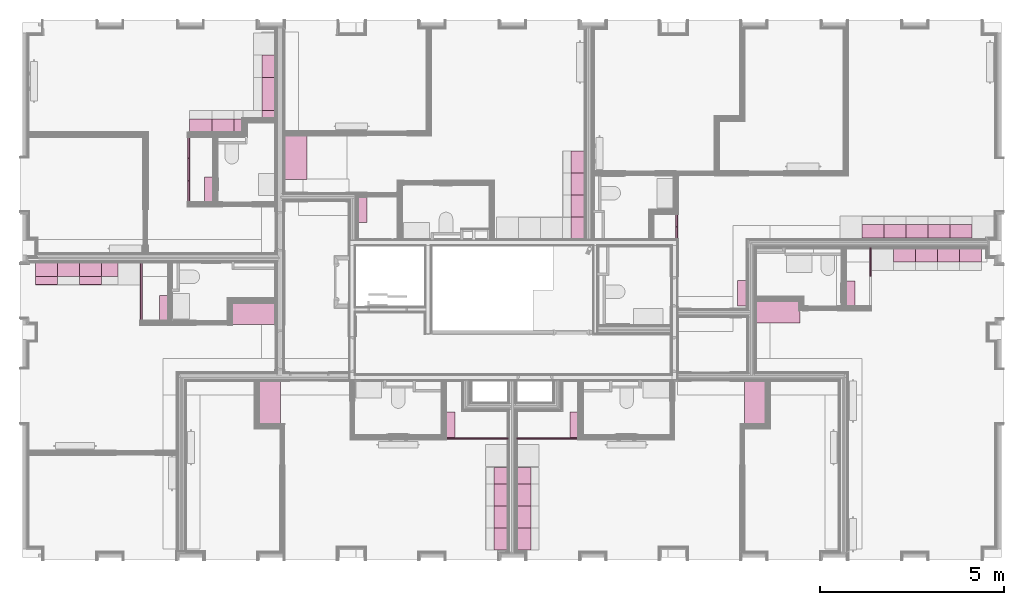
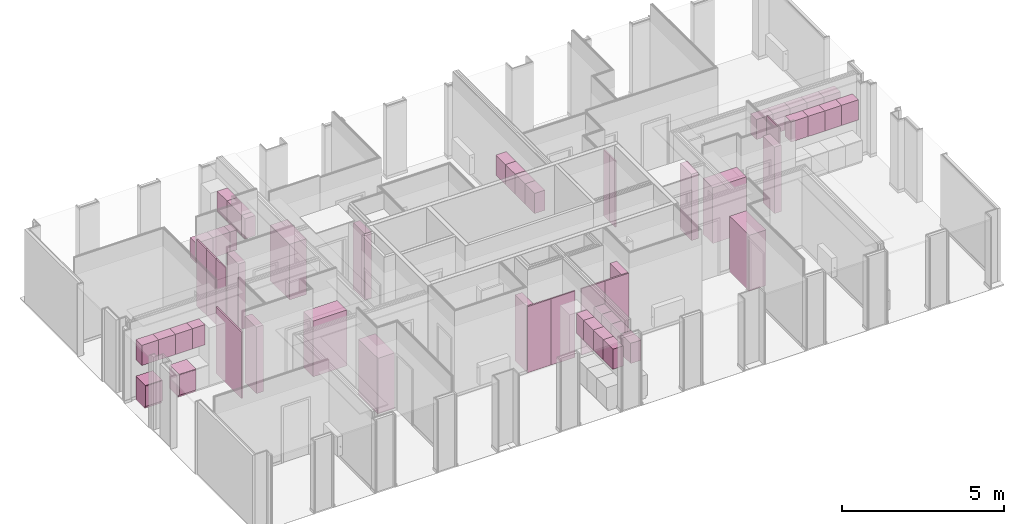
# One storey, part 62 of 64: 56 furnishings.
"""IFC2X3 building model written with IfcOpenShell, lengths in metres."""

import ifcopenshell
import ifcopenshell.guid

model = None  # the IFC model being written
_history = None  # IfcOwnerHistory: only IFC2X3 demands one
_inside = {}  # id of a spatial element -> (the spatial element, [elements in it])
_under = {}  # id of a project, library or spatial element -> (it, [spatial elements below it])
_declared = {}  # id of a project -> (the project, [libraries it declares])
_typed = {}  # id of a type object -> (the type object, [elements of that type])
_made_of = {}  # id of a material, layer set ... -> (it, [elements and type objects made of it])


def new_model(schema):
    """Start an empty IFC model of exactly this schema.

    Asked for "IFC4X3", IfcOpenShell would pick the latest addendum, in which some entities
    have other attributes; the version numbers below select the first issue.
    IFC2X3 requires an IfcOwnerHistory on every rooted entity: one is made here for all.
    """
    global model, _history
    if schema == "IFC4X3":
        model = ifcopenshell.file(schema_version=(4, 3, 0, 0))
    else:
        model = ifcopenshell.file(schema=schema)
    _inside.clear()
    _under.clear()
    _declared.clear()
    _typed.clear()
    _made_of.clear()
    _history = None
    if model.schema == "IFC2X3":
        org = make("IfcOrganization", Name="unknown")
        user = make(
            "IfcPersonAndOrganization",
            ThePerson=make("IfcPerson", FamilyName="unknown"),
            TheOrganization=org,
        )
        app = make(
            "IfcApplication",
            ApplicationDeveloper=org,
            Version="unknown",
            ApplicationFullName="unknown",
            ApplicationIdentifier="unknown",
        )
        _history = make(
            "IfcOwnerHistory",
            OwningUser=user,
            OwningApplication=app,
            ChangeAction="ADDED",
            CreationDate=0,
        )
    return model


def make(cls, **values):
    """One entity of the class cls with the attributes given. An attribute that is None is left unset."""
    return model.create_entity(
        cls, **{name: value for name, value in values.items() if value is not None}
    )


def entity(cls, *values):
    """Any entity or typed value of the class cls, its attributes in the order of the schema. None: left unset."""
    e = model.create_entity(cls)
    for i, value in enumerate(values):
        if value is not None:
            e[i] = value
    return e


def rooted(cls, **values):
    """An entity with a GlobalId (a new one), such as an element, a storey or a relation."""
    return make(cls, GlobalId=ifcopenshell.guid.new(), OwnerHistory=_history, **values)


def si_unit(unit_type, name, prefix=None):
    """IfcSIUnit, for example si_unit("LENGTHUNIT", "METRE", prefix="MILLI")."""
    return make("IfcSIUnit", UnitType=unit_type, Prefix=prefix, Name=name)


def converted_unit(unit_type, name, factor, base, dimensions=None, offset=None):
    """IfcConversionBasedUnit, such as the inch: factor (a typed value) times the base unit."""
    return make(
        "IfcConversionBasedUnit"
        if offset is None
        else "IfcConversionBasedUnitWithOffset",
        ConversionOffset=offset,
        Dimensions=None
        if dimensions is None
        else entity("IfcDimensionalExponents", *dimensions),
        UnitType=unit_type,
        Name=name,
        ConversionFactor=make(
            "IfcMeasureWithUnit", ValueComponent=factor, UnitComponent=base
        ),
    )


def derived_unit(unit_type, elements):
    """IfcDerivedUnit: a product of units, each with its exponent."""
    return make(
        "IfcDerivedUnit",
        Elements=[
            make("IfcDerivedUnitElement", Unit=unit, Exponent=power)
            for unit, power in elements
        ],
        UnitType=unit_type,
    )


def money_unit(currency):
    """IfcMonetaryUnit."""
    return make("IfcMonetaryUnit", Currency=currency)


def assignment(units):
    """IfcUnitAssignment: the units of a project."""
    return None if units is None else make("IfcUnitAssignment", Units=units)


def point(xyz):
    """IfcCartesianPoint."""
    return None if xyz is None else make("IfcCartesianPoint", Coordinates=xyz)


def direction(xyz):
    """IfcDirection."""
    return None if xyz is None else make("IfcDirection", DirectionRatios=xyz)


def frame(location, z_axis=None, x_axis=None):
    """IfcAxis2Placement3D, a coordinate frame: its origin and axes. An axis left out is left unset."""
    return make(
        "IfcAxis2Placement3D",
        Location=point(location),
        Axis=direction(z_axis),
        RefDirection=direction(x_axis),
    )


def frame_2d(location, x_axis=None):
    """IfcAxis2Placement2D, a coordinate frame in the plane: its origin and x axis."""
    return make(
        "IfcAxis2Placement2D", Location=point(location), RefDirection=direction(x_axis)
    )


def origin_with_axes():
    """The frame at (0, 0, 0) with the z axis (0, 0, 1) and the x axis (1, 0, 0) written out."""
    return frame((0.0, 0.0, 0.0), z_axis=(0.0, 0.0, 1.0), x_axis=(1.0, 0.0, 0.0))


def place(relative_to, where):
    """IfcLocalPlacement: puts the frame where relative to a parent placement (None: the world)."""
    return make(
        "IfcLocalPlacement", PlacementRelTo=relative_to, RelativePlacement=where
    )


def context(
    kind, dimensions, precision=None, world=None, true_north=None, identifier=None
):
    """IfcGeometricRepresentationContext, for example the 3D "Model" context."""
    return make(
        "IfcGeometricRepresentationContext",
        ContextIdentifier=identifier,
        ContextType=kind,
        CoordinateSpaceDimension=dimensions,
        Precision=precision,
        WorldCoordinateSystem=world,
        TrueNorth=true_north,
    )


def subcontext(parent, identifier, kind, view, scale=None):
    """IfcGeometricRepresentationSubContext, for example "Body" below "Model"."""
    return make(
        "IfcGeometricRepresentationSubContext",
        ContextIdentifier=identifier,
        ContextType=kind,
        ParentContext=parent,
        TargetScale=scale,
        TargetView=view,
    )


def project(units=None, contexts=None):
    """IfcProject with its units and contexts."""
    return rooted(
        "IfcProject",
        Name="project",
        RepresentationContexts=contexts,
        UnitsInContext=assignment(units),
    )


def spatial(cls, under=None, at=None, **own):
    """A site, building, storey or space (cls), placed at a placement, below another one or the project."""
    s = rooted(cls, ObjectPlacement=at, **own)
    if under is not None:
        _under.setdefault(under.id(), (under, []))[1].append(s)
    return s


def profile(cls, at=None, kind="AREA", **sizes):
    """A parametric profile (cls). Its sizes go by their IFC names, for example OverallWidth=200.0."""
    return make(cls, ProfileType=kind, Position=at, **sizes)


def rectangle(**sizes):
    """IfcRectangleProfileDef."""
    return profile("IfcRectangleProfileDef", **sizes)


def extrude(swept, where, along, depth):
    """IfcExtrudedAreaSolid: the profile swept, set in the frame where, extruded along a direction by depth."""
    return make(
        "IfcExtrudedAreaSolid",
        SweptArea=swept,
        Position=where,
        ExtrudedDirection=direction(along),
        Depth=depth,
    )


def faces_of(points, faces, orient=None, outer=None):
    """IfcFace entities. A face is a list of loops; a loop is a list of indices into points, from 0.

    orient and outer hold one flag for each loop. By default every Orientation is true, the
    first loop of a face is its IfcFaceOuterBound and the others are IfcFaceBound.
    """
    made = []
    for i, loops in enumerate(faces):
        bounds = []
        for j, loop in enumerate(loops):
            is_outer = j == 0 if outer is None else outer[i][j]
            bounds.append(
                make(
                    "IfcFaceOuterBound" if is_outer else "IfcFaceBound",
                    Bound=make("IfcPolyLoop", Polygon=[points[k] for k in loop]),
                    Orientation=True if orient is None else orient[i][j],
                )
            )
        made.append(make("IfcFace", Bounds=bounds))
    return made


def faceted_brep(points, faces, orient=None, outer=None, voids=None):
    """IfcFacetedBrep: a solid bounded by flat faces; with voids (closed shells), ...WithVoids."""
    shared = [point(p) for p in points]
    hull = make("IfcClosedShell", CfsFaces=faces_of(shared, faces, orient, outer))
    if voids is None:
        return make("IfcFacetedBrep", Outer=hull)
    return make(
        "IfcFacetedBrepWithVoids",
        Outer=hull,
        Voids=[
            make(cls, CfsFaces=faces_of(shared, fs, o, b)) for cls, fs, o, b in voids
        ],
    )


def shape(context_of_items, identifier, shape_type, items):
    """IfcShapeRepresentation: the items that make up one representation, for example the "Body"."""
    return make(
        "IfcShapeRepresentation",
        ContextOfItems=context_of_items,
        RepresentationIdentifier=identifier,
        RepresentationType=shape_type,
        Items=items,
    )


def material(Name=None, Category=None):
    """IfcMaterial."""
    return make("IfcMaterial", Name=Name, Category=Category)


def made_of(thing, what):
    """Note that an element or type object is made of a material, layer set ...; save() writes the relation."""
    if what is not None:
        _made_of.setdefault(what.id(), (what, []))[1].append(thing)
    return thing


def type_object(cls, material=None, **own):
    """A type object (cls), such as IfcWallType, which elements share."""
    return made_of(rooted(cls, **own), material)


def element(
    cls,
    number,
    at=None,
    inside=None,
    cuts=None,
    type_object=None,
    material=None,
    context=None,
    identifier="Body",
    shape_type=None,
    held_by="IfcProductDefinitionShape",
    body=None,
    shapes=None,
    **own,
):
    """One element of the class cls, such as IfcWall. Its Tag is "e" and its number.

    at: its placement. inside: the storey or other place that contains it. cuts: it is an
    opening in that element (IfcRelVoidsElement). A single representation is given by context,
    identifier, shape_type and body (its items); several are given by shapes. held_by: the class
    of the entity that holds the representations. save() writes the other relations.
    """
    e = rooted(cls, Tag="e%d" % number, ObjectPlacement=at, **own)
    if body is not None:
        shapes = [shape(context, identifier, shape_type, body)]
    if shapes is not None:
        e.Representation = make(held_by, Representations=shapes)
    if inside is not None:
        _inside.setdefault(inside.id(), (inside, []))[1].append(e)
    if cuts is not None:
        rooted(
            "IfcRelVoidsElement", RelatingBuildingElement=cuts, RelatedOpeningElement=e
        )
    if type_object is not None:
        _typed.setdefault(type_object.id(), (type_object, []))[1].append(e)
    return made_of(e, material)


def aggregate(whole, parts):
    """IfcRelAggregates: a whole, such as a stair, and the parts it consists of."""
    return rooted("IfcRelAggregates", RelatingObject=whole, RelatedObjects=parts)


def save(model, path):
    """Write the relations noted so far, then the file.

    IfcRelAggregates (storeys below a building ...), IfcRelContainedInSpatialStructure (elements
    in a storey), IfcRelDefinesByType, IfcRelAssociatesMaterial and IfcRelDeclares: one each for
    every whole, place, type object, material and project.
    """
    for whole, parts in _under.values():
        aggregate(whole, parts)
    for where, things in _inside.values():
        rooted(
            "IfcRelContainedInSpatialStructure",
            RelatedElements=things,
            RelatingStructure=where,
        )
    for kind, things in _typed.values():
        rooted("IfcRelDefinesByType", RelatedObjects=things, RelatingType=kind)
    for what, things in _made_of.values():
        rooted("IfcRelAssociatesMaterial", RelatedObjects=things, RelatingMaterial=what)
    for by, libraries in _declared.values():
        rooted("IfcRelDeclares", RelatingContext=by, RelatedDefinitions=libraries)
    model.write(path)


model = new_model("IFC2X3")

# Units and contexts
model_context = context("Model", 3, precision=1e-05, world=origin_with_axes(), true_north=direction((0.0, 1.0)))
body_context = subcontext(model_context, "Body", "Model", "MODEL_VIEW", scale=1.0)
ifc_project = project(units=[si_unit("LENGTHUNIT", "METRE"), si_unit("AREAUNIT", "SQUARE_METRE"), si_unit("VOLUMEUNIT", "CUBIC_METRE"), si_unit("ABSORBEDDOSEUNIT", "GRAY"), si_unit("AMOUNTOFSUBSTANCEUNIT", "MOLE"), si_unit("DOSEEQUIVALENTUNIT", "SIEVERT"), si_unit("ELECTRICCAPACITANCEUNIT", "FARAD"), si_unit("ELECTRICCHARGEUNIT", "COULOMB"), si_unit("ELECTRICCONDUCTANCEUNIT", "SIEMENS"), si_unit("ELECTRICCURRENTUNIT", "AMPERE"), si_unit("ELECTRICRESISTANCEUNIT", "OHM"), si_unit("ELECTRICVOLTAGEUNIT", "VOLT"), si_unit("ENERGYUNIT", "JOULE"), si_unit("FORCEUNIT", "NEWTON"), si_unit("FREQUENCYUNIT", "HERTZ"), si_unit("ILLUMINANCEUNIT", "LUX"), si_unit("INDUCTANCEUNIT", "HENRY"), si_unit("LUMINOUSFLUXUNIT", "LUMEN"), si_unit("LUMINOUSINTENSITYUNIT", "CANDELA"), si_unit("MAGNETICFLUXDENSITYUNIT", "TESLA"), si_unit("MAGNETICFLUXUNIT", "WEBER"), si_unit("MASSUNIT", "GRAM"), converted_unit("PLANEANGLEUNIT", "degree", entity("IfcReal", 0.0174532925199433), si_unit("PLANEANGLEUNIT", "RADIAN"), dimensions=[0, 0, 0, 0, 0, 0, 0]), si_unit("POWERUNIT", "WATT"), si_unit("PRESSUREUNIT", "PASCAL"), si_unit("RADIOACTIVITYUNIT", "BECQUEREL"), si_unit("SOLIDANGLEUNIT", "STERADIAN"), si_unit("THERMODYNAMICTEMPERATUREUNIT", "KELVIN"), si_unit("TIMEUNIT", "SECOND"), derived_unit("ACCELERATIONUNIT", [(si_unit("LENGTHUNIT", "METRE"), 1), (si_unit("TIMEUNIT", "SECOND"), -2)]), derived_unit("ANGULARVELOCITYUNIT", [(converted_unit("PLANEANGLEUNIT", "degree", entity("IfcReal", 0.0174532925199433), si_unit("PLANEANGLEUNIT", "RADIAN"), dimensions=[0, 0, 0, 0, 0, 0, 0]), 1), (si_unit("TIMEUNIT", "SECOND"), -1)]), derived_unit("CURVATUREUNIT", [(converted_unit("PLANEANGLEUNIT", "degree", entity("IfcReal", 0.0174532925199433), si_unit("PLANEANGLEUNIT", "RADIAN"), dimensions=[0, 0, 0, 0, 0, 0, 0]), 1), (si_unit("LENGTHUNIT", "METRE"), -1)]), derived_unit("DYNAMICVISCOSITYUNIT", [(si_unit("PRESSUREUNIT", "PASCAL"), 1), (si_unit("TIMEUNIT", "SECOND"), 1)]), derived_unit("HEATFLUXDENSITYUNIT", [(si_unit("POWERUNIT", "WATT"), 1), (si_unit("LENGTHUNIT", "METRE"), -2)]), derived_unit("HEATINGVALUEUNIT", [(si_unit("ENERGYUNIT", "JOULE"), 1), (si_unit("MASSUNIT", "GRAM"), -1)]), derived_unit("INTEGERCOUNTRATEUNIT", [(si_unit("TIMEUNIT", "SECOND"), -1)]), derived_unit("IONCONCENTRATIONUNIT", [(si_unit("MASSUNIT", "GRAM"), 1), (si_unit("VOLUMEUNIT", "CUBIC_METRE"), -1)]), derived_unit("ISOTHERMALMOISTURECAPACITYUNIT", [(si_unit("VOLUMEUNIT", "CUBIC_METRE"), 1), (si_unit("MASSUNIT", "GRAM"), -1)]), derived_unit("KINEMATICVISCOSITYUNIT", [(si_unit("AREAUNIT", "SQUARE_METRE"), 1), (si_unit("TIMEUNIT", "SECOND"), -1)]), derived_unit("LINEARFORCEUNIT", [(si_unit("FORCEUNIT", "NEWTON"), 1), (si_unit("LENGTHUNIT", "METRE"), -1)]), derived_unit("LINEARMOMENTUNIT", [(si_unit("FORCEUNIT", "NEWTON"), 1), (si_unit("LENGTHUNIT", "METRE"), -1)]), derived_unit("LINEARSTIFFNESSUNIT", [(si_unit("FORCEUNIT", "NEWTON"), 1), (si_unit("LENGTHUNIT", "METRE"), -1)]), derived_unit("LINEARVELOCITYUNIT", [(si_unit("LENGTHUNIT", "METRE"), 1), (si_unit("TIMEUNIT", "SECOND"), -1)]), derived_unit("LUMINOUSINTENSITYDISTRIBUTIONUNIT", [(si_unit("LUMINOUSINTENSITYUNIT", "CANDELA"), 1), (si_unit("LUMINOUSFLUXUNIT", "LUMEN"), -1)]), derived_unit("MASSDENSITYUNIT", [(si_unit("MASSUNIT", "GRAM"), 1), (si_unit("VOLUMEUNIT", "CUBIC_METRE"), -1)]), derived_unit("MASSFLOWRATEUNIT", [(si_unit("MASSUNIT", "GRAM"), 1), (si_unit("TIMEUNIT", "SECOND"), -1)]), derived_unit("MASSPERLENGTHUNIT", [(si_unit("MASSUNIT", "GRAM"), 1), (si_unit("LENGTHUNIT", "METRE"), -1)]), derived_unit("MODULUSOFELASTICITYUNIT", [(si_unit("FORCEUNIT", "NEWTON"), 1), (si_unit("AREAUNIT", "SQUARE_METRE"), -1)]), derived_unit("MODULUSOFLINEARSUBGRADEREACTIONUNIT", [(si_unit("FORCEUNIT", "NEWTON"), 1), (si_unit("LENGTHUNIT", "METRE"), -2)]), derived_unit("MODULUSOFROTATIONALSUBGRADEREACTIONUNIT", [(si_unit("FORCEUNIT", "NEWTON"), 1), (si_unit("LENGTHUNIT", "METRE"), 1)]), derived_unit("MODULUSOFSUBGRADEREACTIONUNIT", [(si_unit("FORCEUNIT", "NEWTON"), 1), (si_unit("VOLUMEUNIT", "CUBIC_METRE"), -1)]), derived_unit("MOISTUREDIFFUSIVITYUNIT", [(si_unit("VOLUMEUNIT", "CUBIC_METRE"), 1), (si_unit("TIMEUNIT", "SECOND"), -1)]), derived_unit("MOLECULARWEIGHTUNIT", [(si_unit("MASSUNIT", "GRAM"), 1), (si_unit("AMOUNTOFSUBSTANCEUNIT", "MOLE"), -1)]), derived_unit("PLANARFORCEUNIT", [(si_unit("FORCEUNIT", "NEWTON"), 1), (si_unit("LENGTHUNIT", "METRE"), -2)]), derived_unit("ROTATIONALFREQUENCYUNIT", [(si_unit("TIMEUNIT", "SECOND"), -1)]), derived_unit("ROTATIONALMASSUNIT", [(si_unit("MASSUNIT", "GRAM"), 1), (si_unit("LENGTHUNIT", "METRE"), 2)]), derived_unit("ROTATIONALSTIFFNESSUNIT", [(si_unit("FORCEUNIT", "NEWTON"), 1), (si_unit("LENGTHUNIT", "METRE"), 1), (converted_unit("PLANEANGLEUNIT", "degree", entity("IfcReal", 0.0174532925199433), si_unit("PLANEANGLEUNIT", "RADIAN"), dimensions=[0, 0, 0, 0, 0, 0, 0]), -1)]), derived_unit("SECTIONAREAINTEGRALUNIT", [(si_unit("LENGTHUNIT", "METRE"), 5)]), derived_unit("SECTIONMODULUSUNIT", [(si_unit("LENGTHUNIT", "METRE"), 3)]), derived_unit("SHEARMODULUSUNIT", [(si_unit("FORCEUNIT", "NEWTON"), 1), (si_unit("AREAUNIT", "SQUARE_METRE"), -1)]), derived_unit("SOUNDPOWERUNIT", [(si_unit("ENERGYUNIT", "JOULE"), 1), (si_unit("TIMEUNIT", "SECOND"), -1)]), derived_unit("SPECIFICHEATCAPACITYUNIT", [(si_unit("FORCEUNIT", "NEWTON"), 1), (si_unit("MASSUNIT", "GRAM"), -1), (si_unit("THERMODYNAMICTEMPERATUREUNIT", "KELVIN"), -1)]), derived_unit("TEMPERATUREGRADIENTUNIT", [(si_unit("THERMODYNAMICTEMPERATUREUNIT", "KELVIN"), 1), (si_unit("LENGTHUNIT", "METRE"), -1)]), derived_unit("THERMALADMITTANCEUNIT", [(si_unit("POWERUNIT", "WATT"), 1), (si_unit("AREAUNIT", "SQUARE_METRE"), -1), (si_unit("THERMODYNAMICTEMPERATUREUNIT", "KELVIN"), -1)]), derived_unit("THERMALCONDUCTANCEUNIT", [(si_unit("POWERUNIT", "WATT"), 1), (si_unit("LENGTHUNIT", "METRE"), -1), (si_unit("THERMODYNAMICTEMPERATUREUNIT", "KELVIN"), -1)]), derived_unit("THERMALEXPANSIONCOEFFICIENTUNIT", [(si_unit("THERMODYNAMICTEMPERATUREUNIT", "KELVIN"), -1)]), derived_unit("THERMALRESISTANCEUNIT", [(si_unit("AREAUNIT", "SQUARE_METRE"), 1), (si_unit("POWERUNIT", "WATT"), -1)]), derived_unit("THERMALTRANSMITTANCEUNIT", [(si_unit("POWERUNIT", "WATT"), 1), (si_unit("AREAUNIT", "SQUARE_METRE"), -1), (si_unit("THERMODYNAMICTEMPERATUREUNIT", "KELVIN"), -1)]), derived_unit("TORQUEUNIT", [(si_unit("FORCEUNIT", "NEWTON"), 1), (si_unit("LENGTHUNIT", "METRE"), 1)]), derived_unit("VAPORPERMEABILITYUNIT", [(si_unit("MASSUNIT", "GRAM"), 1), (si_unit("TIMEUNIT", "SECOND"), -1)]), derived_unit("VOLUMETRICFLOWRATEUNIT", [(si_unit("VOLUMEUNIT", "CUBIC_METRE"), 1), (si_unit("TIMEUNIT", "SECOND"), -1)]), derived_unit("WARPINGCONSTANTUNIT", [(si_unit("LENGTHUNIT", "METRE"), 6)]), derived_unit("WARPINGMOMENTUNIT", [(si_unit("FORCEUNIT", "NEWTON"), 1), (si_unit("LENGTHUNIT", "METRE"), 2)]), money_unit("GBP")], contexts=[model_context])

# Site, building, storey, space
site_placement = place(None, origin_with_axes())
site = spatial("IfcSite", under=ifc_project, at=site_placement, Name="Site", CompositionType="ELEMENT")
building_placement = place(site_placement, origin_with_axes())
building = spatial("IfcBuilding", under=site, at=building_placement, Name="Building01", CompositionType="ELEMENT")
storey_placement = place(building_placement, frame((0.0, 0.0, 8.64), z_axis=(0.0, 0.0, 1.0), x_axis=(1.0, 0.0, 0.0)))
storey = spatial("IfcBuildingStorey", under=building, at=storey_placement, Name="2F", CompositionType="ELEMENT", Elevation=8.64)
space_1_placement = place(storey_placement, frame((0.318, 8.21067, 0.017975), z_axis=(0.0, 0.0, 1.0), x_axis=(0.0, -1.0, 0.0)))
space_1 = spatial("IfcSpace", under=storey, at=space_1_placement, Name="13", CompositionType="ELEMENT", InteriorOrExteriorSpace="NOTDEFINED")

# Furnishing
furniture_type_1 = type_object("IfcFurnitureType", Name="SHE_A-Cupboard_Electro")
furnishing_1_placement = place(storey_placement, frame((4.14573, 7.306475, 0.0), z_axis=(0.0, 0.0, 1.0), x_axis=(0.0, -1.0, 0.0)))
element("IfcFurnishingElement", 1, at=furnishing_1_placement, inside=space_1, type_object=furniture_type_1, Name="13", ObjectType="SHE_A-Cupboard_Electro", context=body_context, shape_type="SweptSolid", body=[
    extrude(rectangle(XDim=0.25, YDim=0.7, at=frame_2d((0.35, -0.125), x_axis=(0.0, -1.0))), origin_with_axes(), (0.0, 0.0, 1.0), 2.5),
])

# Space
space_2_placement = place(storey_placement, frame((9.285, 8.82, 0.017975), z_axis=(0.0, 0.0, 1.0), x_axis=(1.0, 0.0, 0.0)))
space_2 = spatial("IfcSpace", under=storey, at=space_2_placement, Name="storage", CompositionType="ELEMENT", InteriorOrExteriorSpace="NOTDEFINED")

# Furnishing
furnishing_2_placement = place(storey_placement, frame((9.3, 9.292704, 0.0), z_axis=(0.0, 0.0, 1.0), x_axis=(0.0, 1.0, 0.0)))
element("IfcFurnishingElement", 2, at=furnishing_2_placement, inside=space_2, type_object=furniture_type_1, Name="15", ObjectType="SHE_A-Cupboard_Electro", context=body_context, shape_type="SweptSolid", body=[
    extrude(rectangle(XDim=0.25, YDim=0.7, at=frame_2d((0.35, -0.125), x_axis=(0.0, -1.0))), origin_with_axes(), (0.0, 0.0, 1.0), 2.5),
])

# Space
space_3_placement = place(storey_placement, frame((19.486661, 9.42, 0.017975), z_axis=(0.0, 0.0, 1.0), x_axis=(0.0, -1.0, 0.0)))
space_3 = spatial("IfcSpace", under=storey, at=space_3_placement, Name="storage", CompositionType="ELEMENT", InteriorOrExteriorSpace="NOTDEFINED")

# Furnishing
furnishing_3_placement = place(storey_placement, frame((19.632661, 7.716, 0.0), z_axis=(0.0, 0.0, 1.0), x_axis=(0.0, -1.0, 0.0)))
element("IfcFurnishingElement", 3, at=furnishing_3_placement, inside=space_3, type_object=furniture_type_1, Name="09", ObjectType="SHE_A-Cupboard_Electro", context=body_context, shape_type="SweptSolid", body=[
    extrude(rectangle(XDim=0.25, YDim=0.7, at=frame_2d((0.35, 0.125), x_axis=(0.0, 1.0))), origin_with_axes(), (0.0, 0.0, 1.0), 2.5),
])

# Space
space_4_placement = place(storey_placement, frame((20.122661, 5.205, 0.017975), z_axis=(0.0, 0.0, 1.0), x_axis=(1.0, 0.0, 0.0)))
space_4 = spatial("IfcSpace", under=storey, at=space_4_placement, Name="10", CompositionType="ELEMENT", InteriorOrExteriorSpace="NOTDEFINED")

# Furnishing
furnishing_4_placement = place(storey_placement, frame((22.571661, 7.0, 0.0), z_axis=(0.0, 0.0, 1.0), x_axis=(0.0, 1.0, 0.0)))
element("IfcFurnishingElement", 4, at=furnishing_4_placement, inside=space_4, type_object=furniture_type_1, Name="10", ObjectType="SHE_A-Cupboard_Electro", context=body_context, shape_type="SweptSolid", body=[
    extrude(rectangle(XDim=0.25, YDim=0.7, at=frame_2d((0.35, -0.125), x_axis=(0.0, -1.0))), origin_with_axes(), (0.0, 0.0, 1.0), 2.5),
])

# Space
space_5_placement = place(storey_placement, frame((4.969669, 9.83067, 0.017975), z_axis=(0.0, 0.0, 1.0), x_axis=(1.0, 0.0, 0.0)))
space_5 = spatial("IfcSpace", under=storey, at=space_5_placement, Name="storage", CompositionType="ELEMENT", InteriorOrExteriorSpace="NOTDEFINED")

# Furnishing
furnishing_5_placement = place(storey_placement, frame((5.119669, 9.83067, 0.0), z_axis=(0.0, 0.0, 1.0), x_axis=(0.0, 1.0, 0.0)))
element("IfcFurnishingElement", 5, at=furnishing_5_placement, inside=space_5, type_object=furniture_type_1, Name="14", ObjectType="SHE_A-Cupboard_Electro", context=body_context, shape_type="SweptSolid", body=[
    extrude(rectangle(XDim=0.25, YDim=0.7, at=frame_2d((0.35, -0.125), x_axis=(0.0, -1.0))), origin_with_axes(), (0.0, 0.0, 1.0), 2.5),
])

# Space
space_6_placement = place(storey_placement, frame((13.6125, 3.385, 0.017975), z_axis=(0.0, 0.0, 1.0), x_axis=(1.0, 0.0, 0.0)))
space_6 = spatial("IfcSpace", under=storey, at=space_6_placement, Name="storage", CompositionType="ELEMENT", InteriorOrExteriorSpace="NOTDEFINED")

# Furnishing
furnishing_6_placement = place(storey_placement, frame((15.0625, 3.435, 0.0), z_axis=(0.0, 0.0, 1.0), x_axis=(0.0, 1.0, 0.0)))
element("IfcFurnishingElement", 6, at=furnishing_6_placement, inside=space_6, type_object=furniture_type_1, Name="11", ObjectType="SHE_A-Cupboard_Electro", context=body_context, shape_type="SweptSolid", body=[
    extrude(rectangle(XDim=0.25, YDim=0.7, at=frame_2d((0.35, -0.125), x_axis=(0.0, -1.0))), origin_with_axes(), (0.0, 0.0, 1.0), 2.5),
])

# Space
space_7_placement = place(storey_placement, frame((11.687536, 3.385, 0.017975), z_axis=(0.0, 0.0, 1.0), x_axis=(1.0, 0.0, 0.0)))
space_7 = spatial("IfcSpace", under=storey, at=space_7_placement, Name="storage", CompositionType="ELEMENT", InteriorOrExteriorSpace="NOTDEFINED")

# Furnishings
furnishing_7_placement = place(storey_placement, frame((11.687536, 3.435, 0.0), z_axis=(0.0, 0.0, 1.0), x_axis=(0.0, 1.0, 0.0)))
element("IfcFurnishingElement", 7, at=furnishing_7_placement, inside=space_7, type_object=furniture_type_1, Name="12", ObjectType="SHE_A-Cupboard_Electro", context=body_context, shape_type="SweptSolid", body=[
    extrude(rectangle(XDim=0.25, YDim=0.7, at=frame_2d((0.35, -0.125), x_axis=(0.0, -1.0))), origin_with_axes(), (0.0, 0.0, 1.0), 2.5),
])
ifc_material = material(Name="A_BSUK_StorageScreening_Ffe")
furniture_type_2 = type_object("IfcFurnitureType", Name="SHE_A-Kitchenunit-Base")
placement = place(storey_placement, frame((0.0, 0.0, -8.64), z_axis=(0.0, 0.0, 1.0), x_axis=(1.0, 0.0, 0.0)))
element("IfcFurnishingElement", 8, at=placement, inside=space_1, type_object=furniture_type_2, material=ifc_material, Name="13", ObjectType="SHE_A-Kitchenunit-Base", context=body_context, shape_type="Brep", body=[
    faceted_brep([(1.72073, 8.18817, 9.529), (2.32073, 8.18817, 9.529), (2.32073, 8.18817, 8.644), (1.72073, 8.18817, 8.644), (2.32073, 7.595241, 9.529), (2.32073, 7.58817, 9.521929), (2.32073, 7.58817, 9.511071), (2.32073, 7.595241, 9.504), (2.32073, 7.58817, 9.504), (2.32073, 7.58817, 8.744), (2.32073, 7.63817, 8.744), (2.32073, 7.63817, 8.644), (1.72073, 7.63817, 8.744), (1.72073, 7.63817, 8.644), (1.72073, 7.58817, 8.744), (1.72073, 7.58817, 9.504), (1.72073, 7.595241, 9.504), (1.72073, 7.58817, 9.511071), (1.72073, 7.58817, 9.521929), (1.72073, 7.595241, 9.529)], [[[0, 1, 2, 3]], [[1, 4, 5, 6, 7, 8, 9, 10, 11, 2]], [[12, 13, 11, 10]], [[12, 14, 15, 16, 17, 18, 19, 0, 3, 13]], [[2, 11, 13, 3]], [[7, 16, 15, 8]], [[9, 8, 15, 14]], [[10, 9, 14, 12]], [[5, 18, 17, 6]], [[19, 4, 1, 0]], [[6, 17, 16, 7]], [[4, 19, 18, 5]]]),
])
element("IfcFurnishingElement", 9, at=placement, inside=space_1, type_object=furniture_type_2, material=ifc_material, Name="13", ObjectType="SHE_A-Kitchenunit-Base", context=body_context, shape_type="Brep", body=[
    faceted_brep([(0.52073, 8.18817, 9.529), (1.12073, 8.18817, 9.529), (1.12073, 8.18817, 8.644), (0.52073, 8.18817, 8.644), (1.12073, 7.595241, 9.529), (1.12073, 7.58817, 9.521929), (1.12073, 7.58817, 9.511071), (1.12073, 7.595241, 9.504), (1.12073, 7.58817, 9.504), (1.12073, 7.58817, 8.744), (1.12073, 7.63817, 8.744), (1.12073, 7.63817, 8.644), (0.52073, 7.63817, 8.744), (0.52073, 7.63817, 8.644), (0.52073, 7.58817, 8.744), (0.52073, 7.58817, 9.504), (0.52073, 7.595241, 9.504), (0.52073, 7.58817, 9.511071), (0.52073, 7.58817, 9.521929), (0.52073, 7.595241, 9.529)], [[[0, 1, 2, 3]], [[1, 4, 5, 6, 7, 8, 9, 10, 11, 2]], [[12, 13, 11, 10]], [[12, 14, 15, 16, 17, 18, 19, 0, 3, 13]], [[2, 11, 13, 3]], [[7, 16, 15, 8]], [[9, 8, 15, 14]], [[10, 9, 14, 12]], [[5, 18, 17, 6]], [[19, 4, 1, 0]], [[6, 17, 16, 7]], [[4, 19, 18, 5]]]),
])
furniture_type_3 = type_object("IfcFurnitureType", Name="SHE_A-Kitchenunit-Wall")
for number, where, z_axis, x_axis, name in (
    (10, (1.72073, 8.18817, 1.504), (0.0, 0.0, 1.0), (1.0, 0.0, 0.0), "13"),
    (11, (1.12073, 8.18817, 1.504), (0.0, 0.0, 1.0), (1.0, 0.0, 0.0), "13"),
    (12, (0.52073, 8.18817, 1.504), (0.0, 0.0, 1.0), (1.0, 0.0, 0.0), "13"),
):
    element("IfcFurnishingElement", number, at=place(storey_placement, frame(where, z_axis=z_axis, x_axis=x_axis)), inside=space_1, type_object=furniture_type_3, Name=name, ObjectType="SHE_A-Kitchenunit-Wall", context=body_context, shape_type="SweptSolid", body=[
        extrude(rectangle(XDim=0.37, YDim=0.6, at=frame_2d((0.3, -0.185), x_axis=(0.0, -1.0))), origin_with_axes(), (0.0, 0.0, 1.0), 0.76),
    ])

# Space
space_8_placement = place(storey_placement, frame((7.289669, 14.8, 0.017975), z_axis=(0.0, 0.0, 1.0), x_axis=(0.0, -1.0, 0.0)))
space_8 = spatial("IfcSpace", under=storey, at=space_8_placement, Name="15", CompositionType="ELEMENT", InteriorOrExteriorSpace="NOTDEFINED")

# Furnishings
for number, where, z_axis, x_axis, name in (
    (13, (15.468132, 9.435, 1.504), (0.0, 0.0, 1.0), (0.0, -1.0, 0.0), "15"),
    (14, (15.468132, 10.035, 1.504), (0.0, 0.0, 1.0), (0.0, -1.0, 0.0), "15"),
    (15, (15.468132, 10.635, 1.504), (0.0, 0.0, 1.0), (0.0, -1.0, 0.0), "15"),
    (16, (15.468132, 11.235, 1.504), (0.0, 0.0, 1.0), (0.0, -1.0, 0.0), "15"),
):
    element("IfcFurnishingElement", number, at=place(storey_placement, frame(where, z_axis=z_axis, x_axis=x_axis)), inside=space_8, type_object=furniture_type_3, Name=name, ObjectType="SHE_A-Kitchenunit-Wall", context=body_context, shape_type="SweptSolid", body=[
        extrude(rectangle(XDim=0.37, YDim=0.6, at=frame_2d((0.3, -0.185), x_axis=(0.0, -1.0))), origin_with_axes(), (0.0, 0.0, 1.0), 0.76),
    ])

# Space
space_9_placement = place(storey_placement, frame((22.624794, 8.82, 0.017975), z_axis=(0.0, 0.0, 1.0), x_axis=(1.0, 0.0, 0.0)))
space_9 = spatial("IfcSpace", under=storey, at=space_9_placement, Name="k/d/l", CompositionType="ELEMENT", InteriorOrExteriorSpace="NOTDEFINED")

# Furnishings
for number, where, z_axis, x_axis, name in (
    (17, (23.609999, 8.863, 1.504), (0.0, 0.0, 1.0), (-1.0, 0.0, 0.0), "09"),
    (18, (24.209999, 8.863, 1.504), (0.0, 0.0, 1.0), (-1.0, 0.0, 0.0), "09"),
    (19, (24.809999, 8.863, 1.504), (0.0, 0.0, 1.0), (-1.0, 0.0, 0.0), "09"),
):
    element("IfcFurnishingElement", number, at=place(storey_placement, frame(where, z_axis=z_axis, x_axis=x_axis)), inside=space_9, type_object=furniture_type_3, Name=name, ObjectType="SHE_A-Kitchenunit-Wall", context=body_context, shape_type="SweptSolid", body=[
        extrude(rectangle(XDim=0.37, YDim=0.6, at=frame_2d((0.3, -0.185), x_axis=(0.0, -1.0))), origin_with_axes(), (0.0, 0.0, 1.0), 0.76),
    ])

# Space
space_10_placement = place(storey_placement, frame((15.83, 8.82, 0.017975), z_axis=(0.0, 0.0, 1.0), x_axis=(0.0, -1.0, 0.0)))
space_10 = spatial("IfcSpace", under=storey, at=space_10_placement, Name="09", CompositionType="ELEMENT", InteriorOrExteriorSpace="NOTDEFINED")

# Furnishings
for number, where, z_axis, x_axis, name in (
    (20, (25.409999, 8.863, 1.504), (0.0, 0.0, 1.0), (-1.0, 0.0, 0.0), "09"),
    (21, (26.009999, 8.863, 1.504), (0.0, 0.0, 1.0), (-1.0, 0.0, 0.0), "09"),
):
    element("IfcFurnishingElement", number, at=place(storey_placement, frame(where, z_axis=z_axis, x_axis=x_axis)), inside=space_10, type_object=furniture_type_3, Name=name, ObjectType="SHE_A-Kitchenunit-Wall", context=body_context, shape_type="SweptSolid", body=[
        extrude(rectangle(XDim=0.37, YDim=0.6, at=frame_2d((0.3, -0.185), x_axis=(0.0, -1.0))), origin_with_axes(), (0.0, 0.0, 1.0), 0.76),
    ])

# Space
space_11_placement = place(storey_placement, frame((20.122661, 7.155, 0.017975), z_axis=(0.0, 0.0, 1.0), x_axis=(0.0, -1.0, 0.0)))
space_11 = spatial("IfcSpace", under=storey, at=space_11_placement, Name="studio", CompositionType="ELEMENT", InteriorOrExteriorSpace="NOTDEFINED")

# Furnishings
for number, where, z_axis, x_axis, name in (
    (22, (25.671529, 8.58, 1.504), (0.0, 0.0, 1.0), (-1.0, 0.0, 0.0), "10"),
    (23, (25.071529, 8.58, 1.504), (0.0, 0.0, 1.0), (-1.0, 0.0, 0.0), "10"),
    (24, (24.471529, 8.58, 1.504), (0.0, 0.0, 1.0), (-1.0, 0.0, 0.0), "10"),
    (25, (26.271529, 8.58, 1.504), (0.0, 0.0, 1.0), (-1.0, 0.0, 0.0), "10"),
):
    element("IfcFurnishingElement", number, at=place(storey_placement, frame(where, z_axis=z_axis, x_axis=x_axis)), inside=space_11, type_object=furniture_type_3, Name=name, ObjectType="SHE_A-Kitchenunit-Wall", context=body_context, shape_type="SweptSolid", body=[
        extrude(rectangle(XDim=0.37, YDim=0.6, at=frame_2d((0.3, 0.185), x_axis=(0.0, 1.0))), origin_with_axes(), (0.0, 0.0, 1.0), 0.76),
    ])

# Space
space_12_placement = place(storey_placement, frame((14.85, 4.98, 0.017975), z_axis=(0.0, 0.0, 1.0), x_axis=(0.0, -1.0, 0.0)))
space_12 = spatial("IfcSpace", under=storey, at=space_12_placement, Name="11", CompositionType="ELEMENT", InteriorOrExteriorSpace="NOTDEFINED")

# Furnishings
for number, where, z_axis, x_axis, name in (
    (26, (13.631, 2.175001, 1.504), (0.0, 0.0, 1.0), (0.0, -1.0, 0.0), "11"),
    (27, (13.631, 1.575001, 1.504), (0.0, 0.0, 1.0), (0.0, -1.0, 0.0), "11"),
    (28, (13.631, 0.975001, 1.504), (0.0, 0.0, 1.0), (0.0, -1.0, 0.0), "11"),
):
    element("IfcFurnishingElement", number, at=place(storey_placement, frame(where, z_axis=z_axis, x_axis=x_axis)), inside=space_12, type_object=furniture_type_3, Name=name, ObjectType="SHE_A-Kitchenunit-Wall", context=body_context, shape_type="SweptSolid", body=[
        extrude(rectangle(XDim=0.37, YDim=0.6, at=frame_2d((0.3, 0.185), x_axis=(0.0, 1.0))), origin_with_axes(), (0.0, 0.0, 1.0), 0.76),
    ])

# Space
space_13_placement = place(storey_placement, frame((12.15, 4.98, 0.017975), z_axis=(0.0, 0.0, 1.0), x_axis=(-1.0, 0.0, 0.0)))
space_13 = spatial("IfcSpace", under=storey, at=space_13_placement, Name="12", CompositionType="ELEMENT", InteriorOrExteriorSpace="NOTDEFINED")

# Furnishings
for number, where, z_axis, x_axis, name in (
    (29, (13.369, 1.575001, 1.504), (0.0, 0.0, 1.0), (0.0, -1.0, 0.0), "12"),
    (30, (13.369, 0.975001, 1.504), (0.0, 0.0, 1.0), (0.0, -1.0, 0.0), "12"),
    (31, (13.369, 2.175001, 1.504), (0.0, 0.0, 1.0), (0.0, -1.0, 0.0), "12"),
):
    element("IfcFurnishingElement", number, at=place(storey_placement, frame(where, z_axis=z_axis, x_axis=x_axis)), inside=space_13, type_object=furniture_type_3, Name=name, ObjectType="SHE_A-Kitchenunit-Wall", context=body_context, shape_type="SweptSolid", body=[
        extrude(rectangle(XDim=0.37, YDim=0.6, at=frame_2d((0.3, -0.185), x_axis=(0.0, -1.0))), origin_with_axes(), (0.0, 0.0, 1.0), 0.76),
    ])

# Space
space_14_placement = place(storey_placement, frame((0.318, 11.72567, 0.017975), z_axis=(0.0, 0.0, 1.0), x_axis=(1.0, 0.0, 0.0)))
space_14 = spatial("IfcSpace", under=storey, at=space_14_placement, Name="k/d/l", CompositionType="ELEMENT", InteriorOrExteriorSpace="NOTDEFINED")

# Furnishings
for number, where, z_axis, x_axis, name in (
    (32, (4.719669, 11.74067, 1.504), (0.0, 0.0, 1.0), (1.0, 0.0, 0.0), "14"),
    (33, (7.049669, 13.24067, 1.504), (0.0, 0.0, 1.0), (0.0, 1.0, 0.0), "14"),
):
    element("IfcFurnishingElement", number, at=place(storey_placement, frame(where, z_axis=z_axis, x_axis=x_axis)), inside=space_14, type_object=furniture_type_3, Name=name, ObjectType="SHE_A-Kitchenunit-Wall", context=body_context, shape_type="SweptSolid", body=[
        extrude(rectangle(XDim=0.37, YDim=0.6, at=frame_2d((0.3, 0.185), x_axis=(0.0, 1.0))), origin_with_axes(), (0.0, 0.0, 1.0), 0.76),
    ])
furnishing_10_placement = place(storey_placement, frame((7.049669, 12.34067, 1.504), z_axis=(0.0, 0.0, 1.0), x_axis=(0.0, 1.0, 0.0)))
element("IfcFurnishingElement", 34, at=furnishing_10_placement, inside=space_14, type_object=furniture_type_3, Name="14", ObjectType="SHE_A-Kitchenunit-Wall", context=body_context, shape_type="SweptSolid", body=[
    extrude(rectangle(XDim=0.37, YDim=0.9, at=frame_2d((0.45, 0.185), x_axis=(0.0, 1.0))), origin_with_axes(), (0.0, 0.0, 1.0), 0.76),
])
furnishing_11_placement = place(storey_placement, frame((5.319669, 11.74067, 1.504), z_axis=(0.0, 0.0, 1.0), x_axis=(1.0, 0.0, 0.0)))
element("IfcFurnishingElement", 35, at=furnishing_11_placement, inside=space_14, type_object=furniture_type_3, Name="14", ObjectType="SHE_A-Kitchenunit-Wall", context=body_context, shape_type="SweptSolid", body=[
    extrude(rectangle(XDim=0.37, YDim=0.6, at=frame_2d((0.3, 0.185), x_axis=(0.0, 1.0))), origin_with_axes(), (0.0, 0.0, 1.0), 0.76),
])
furnishing_12_placement = place(storey_placement, frame((5.919669, 11.74067, 1.504), z_axis=(0.0, 0.0, 1.0), x_axis=(1.0, 0.0, 0.0)))
element("IfcFurnishingElement", 36, at=furnishing_12_placement, inside=space_14, type_object=furniture_type_3, Name="14", ObjectType="SHE_A-Kitchenunit-Wall", context=body_context, shape_type="SweptSolid", body=[
    extrude(rectangle(XDim=0.37, YDim=0.25, at=frame_2d((0.125, 0.185), x_axis=(0.0, 1.0))), origin_with_axes(), (0.0, 0.0, 1.0), 0.76),
])
furnishing_13_placement = place(storey_placement, frame((7.049669, 12.12567, 1.504), z_axis=(0.0, 0.0, 1.0), x_axis=(0.0, 1.0, 0.0)))
element("IfcFurnishingElement", 37, at=furnishing_13_placement, inside=space_14, type_object=furniture_type_3, Name="14", ObjectType="SHE_A-Kitchenunit-Wall", context=body_context, shape_type="SweptSolid", body=[
    extrude(rectangle(XDim=0.37, YDim=0.215, at=frame_2d((0.1075, 0.185), x_axis=(0.0, 1.0))), origin_with_axes(), (0.0, 0.0, 1.0), 0.76),
])
furniture_type_4 = type_object("IfcFurnitureType", Name="SHE_A-Wardrobe_hall 40x90")
furnishing_14_placement = place(storey_placement, frame((5.864669, 7.111475, 0.0), z_axis=(0.0, 0.0, 1.0), x_axis=(1.0, 0.0, 0.0)))
element("IfcFurnishingElement", 38, at=furnishing_14_placement, inside=space_1, type_object=furniture_type_4, Name="13", ObjectType="SHE_A-Wardrobe_hall 40x90", context=body_context, shape_type="SweptSolid", body=[
    extrude(rectangle(XDim=0.6, YDim=1.2, at=frame_2d((0.6, -0.3), x_axis=(0.0, -1.0))), origin_with_axes(), (0.0, 0.0, 1.0), 2.1),
])
furnishing_15_placement = place(storey_placement, frame((20.122661, 7.155, 0.0), z_axis=(0.0, 0.0, 1.0), x_axis=(1.0, 0.0, 0.0)))
element("IfcFurnishingElement", 39, at=furnishing_15_placement, inside=space_4, type_object=furniture_type_4, Name="10", ObjectType="SHE_A-Wardrobe_hall 40x90", context=body_context, shape_type="SweptSolid", body=[
    extrude(rectangle(XDim=0.6, YDim=1.2, at=frame_2d((0.6, -0.3), x_axis=(0.0, -1.0))), origin_with_axes(), (0.0, 0.0, 1.0), 2.1),
])
furnishing_16_placement = place(storey_placement, frame((7.904669, 11.653124, 0.0), z_axis=(0.0, 0.0, 1.0), x_axis=(0.0, -1.0, 0.0)))
element("IfcFurnishingElement", 40, at=furnishing_16_placement, inside=space_8, type_object=furniture_type_4, Name="15", ObjectType="SHE_A-Wardrobe_hall 40x90", context=body_context, shape_type="SweptSolid", body=[
    extrude(rectangle(XDim=0.6, YDim=1.2, at=frame_2d((0.6, -0.3), x_axis=(0.0, -1.0))), origin_with_axes(), (0.0, 0.0, 1.0), 2.1),
])

# Space
space_15_placement = place(storey_placement, frame((6.595, 4.98, 0.017975), z_axis=(0.0, 0.0, 1.0), x_axis=(0.0, -1.0, 0.0)))
space_15 = spatial("IfcSpace", under=storey, at=space_15_placement, Name="k/d/l", CompositionType="ELEMENT", InteriorOrExteriorSpace="NOTDEFINED")

# Furnishing
furnishing_17_placement = place(storey_placement, frame((7.195, 4.98, 0.0), z_axis=(0.0, 0.0, 1.0), x_axis=(0.0, -1.0, 0.0)))
element("IfcFurnishingElement", 41, at=furnishing_17_placement, inside=space_15, type_object=furniture_type_4, Name="12", ObjectType="SHE_A-Wardrobe_hall 40x90", context=body_context, shape_type="SweptSolid", body=[
    extrude(rectangle(XDim=0.6, YDim=1.2, at=frame_2d((0.6, -0.3), x_axis=(0.0, -1.0))), origin_with_axes(), (0.0, 0.0, 1.0), 2.1),
])

# Space
space_16_placement = place(storey_placement, frame((17.9025, 3.385, 0.017975), z_axis=(0.0, 0.0, 1.0), x_axis=(-1.0, 0.0, 0.0)))
space_16 = spatial("IfcSpace", under=storey, at=space_16_placement, Name="k/d/l", CompositionType="ELEMENT", InteriorOrExteriorSpace="NOTDEFINED")

# Furnishings
furnishing_18_placement = place(storey_placement, frame((20.415, 4.98, 0.0), z_axis=(0.0, 0.0, 1.0), x_axis=(0.0, -1.0, 0.0)))
element("IfcFurnishingElement", 42, at=furnishing_18_placement, inside=space_16, type_object=furniture_type_4, Name="11", ObjectType="SHE_A-Wardrobe_hall 40x90", context=body_context, shape_type="SweptSolid", body=[
    extrude(rectangle(XDim=0.6, YDim=1.2, at=frame_2d((0.6, -0.3), x_axis=(0.0, -1.0))), origin_with_axes(), (0.0, 0.0, 1.0), 2.1),
])
furniture_type_5 = type_object("IfcFurnitureType", Name="SHE_A-Kitchenunit-Wall37x45")
furnishing_19_placement = place(storey_placement, frame((13.631, 2.175001, 1.504), z_axis=(0.0, 0.0, 1.0), x_axis=(0.0, 1.0, 0.0)))
element("IfcFurnishingElement", 43, at=furnishing_19_placement, inside=space_16, type_object=furniture_type_5, Name="11", ObjectType="SHE_A-Kitchenunit-Wall37x45", context=body_context, shape_type="SweptSolid", body=[
    extrude(rectangle(XDim=0.37, YDim=0.45, at=frame_2d((0.225, -0.185), x_axis=(0.0, -1.0))), origin_with_axes(), (0.0, 0.0, 1.0), 0.76),
])
furnishing_20_placement = place(storey_placement, frame((13.369, 2.175001, 1.504), z_axis=(0.0, 0.0, 1.0), x_axis=(0.0, 1.0, 0.0)))
element("IfcFurnishingElement", 44, at=furnishing_20_placement, inside=space_13, type_object=furniture_type_5, Name="12", ObjectType="SHE_A-Kitchenunit-Wall37x45", context=body_context, shape_type="SweptSolid", body=[
    extrude(rectangle(XDim=0.37, YDim=0.45, at=frame_2d((0.225, 0.185), x_axis=(0.0, 1.0))), origin_with_axes(), (0.0, 0.0, 1.0), 0.76),
])
furnishing_21_placement = place(storey_placement, frame((2.32073, 8.18817, 1.504), z_axis=(0.0, 0.0, 1.0), x_axis=(1.0, 0.0, 0.0)))
element("IfcFurnishingElement", 45, at=furnishing_21_placement, inside=space_1, type_object=furniture_type_5, Name="13", ObjectType="SHE_A-Kitchenunit-Wall37x45", context=body_context, shape_type="SweptSolid", body=[
    extrude(rectangle(XDim=0.37, YDim=0.45, at=frame_2d((0.225, -0.185), x_axis=(0.0, -1.0))), origin_with_axes(), (0.0, 0.0, 1.0), 0.76),
])

# Space
space_17_placement = place(storey_placement, frame((7.064669, 7.111475, 0.017975), z_axis=(0.0, 0.0, 1.0), x_axis=(-1.0, 0.0, 0.0)))
space_17 = spatial("IfcSpace", under=storey, at=space_17_placement, Name="k/d/l", CompositionType="ELEMENT", InteriorOrExteriorSpace="NOTDEFINED")

# Furnishings
furniture_type_6 = type_object("IfcFurnitureType", Name="SHE_A-UtilityCupbord")
furnishing_22_placement = place(storey_placement, frame((3.37073, 8.18817, 0.0), z_axis=(0.0, 0.0, 1.0), x_axis=(1.0, 0.0, 0.0)))
element("IfcFurnishingElement", 46, at=furnishing_22_placement, inside=space_17, type_object=furniture_type_6, Name="13", ObjectType="SHE_A-UtilityCupbord", context=body_context, shape_type="SweptSolid", body=[
    extrude(rectangle(XDim=1.581695, YDim=0.05, at=frame_2d((0.025, -0.790847), x_axis=(0.0, -1.0))), origin_with_axes(), (0.0, 0.0, 1.0), 2.5),
])
furnishing_23_placement = place(storey_placement, frame((23.221529, 8.595, 0.0), z_axis=(0.0, 0.0, 1.0), x_axis=(1.0, 0.0, 0.0)))
element("IfcFurnishingElement", 47, at=furnishing_23_placement, inside=space_11, type_object=furniture_type_6, Name="10", ObjectType="SHE_A-UtilityCupbord", context=body_context, shape_type="SweptSolid", body=[
    extrude(rectangle(XDim=0.7725, YDim=0.05, at=frame_2d((0.025, -0.38625), x_axis=(0.0, -1.0))), origin_with_axes(), (0.0, 0.0, 1.0), 2.5),
])
for number, where, z_axis, x_axis, name in (
    (48, (13.6125, 3.385, 0.0), (0.0, 0.0, 1.0), (0.0, 1.0, 0.0), "11"),
    (49, (14.4625, 3.385, 0.0), (0.0, 0.0, 1.0), (0.0, 1.0, 0.0), "11"),
):
    element("IfcFurnishingElement", number, at=place(storey_placement, frame(where, z_axis=z_axis, x_axis=x_axis)), inside=space_16, type_object=furniture_type_6, Name=name, ObjectType="SHE_A-UtilityCupbord", context=body_context, shape_type="SweptSolid", body=[
        extrude(rectangle(XDim=0.85, YDim=0.05, at=frame_2d((0.025, -0.425), x_axis=(0.0, -1.0))), origin_with_axes(), (0.0, 0.0, 1.0), 2.5),
    ])

# Space
space_18_placement = place(storey_placement, frame((3.569669, 8.43567, 0.017975), z_axis=(0.0, 0.0, 1.0), x_axis=(1.0, 0.0, 0.0)))
space_18 = spatial("IfcSpace", under=storey, at=space_18_placement, Name="corridor", CompositionType="ELEMENT", InteriorOrExteriorSpace="NOTDEFINED")

# Furnishing
furnishing_24_placement = place(storey_placement, frame((4.669669, 11.63067, 0.0), z_axis=(0.0, 0.0, 1.0), x_axis=(1.0, 0.0, 0.0)))
element("IfcFurnishingElement", 50, at=furnishing_24_placement, inside=space_18, type_object=furniture_type_6, Name="14", ObjectType="SHE_A-UtilityCupbord", context=body_context, shape_type="SweptSolid", body=[
    extrude(rectangle(XDim=0.6, YDim=0.05, at=frame_2d((0.025, -0.3), x_axis=(0.0, -1.0))), origin_with_axes(), (0.0, 0.0, 1.0), 2.5),
])

# Space
space_19_placement = place(storey_placement, frame((22.624794, 10.57, 0.017975), z_axis=(0.0, 0.0, 1.0), x_axis=(-1.0, 0.0, 0.0)))
space_19 = spatial("IfcSpace", under=storey, at=space_19_placement, Name="corridor", CompositionType="ELEMENT", InteriorOrExteriorSpace="NOTDEFINED")

# Furnishings
for number, where, z_axis, x_axis, name in (
    (51, (17.95, 9.525, 0.0), (0.0, 0.0, 1.0), (1.0, 0.0, 0.0), "09"),
    (52, (17.95, 9.1725, 0.0), (0.0, 0.0, 1.0), (1.0, 0.0, 0.0), "09"),
):
    element("IfcFurnishingElement", number, at=place(storey_placement, frame(where, z_axis=z_axis, x_axis=x_axis)), inside=space_19, type_object=furniture_type_6, Name=name, ObjectType="SHE_A-UtilityCupbord", context=body_context, shape_type="SweptSolid", body=[
        extrude(rectangle(XDim=0.3525, YDim=0.05, at=frame_2d((0.025, -0.17625), x_axis=(0.0, -1.0))), origin_with_axes(), (0.0, 0.0, 1.0), 2.5),
    ])
for number, where, z_axis, x_axis, name in (
    (53, (4.669669, 11.03067, 0.0), (0.0, 0.0, 1.0), (1.0, 0.0, 0.0), "14"),
    (54, (4.669669, 10.43067, 0.0), (0.0, 0.0, 1.0), (1.0, 0.0, 0.0), "14"),
):
    element("IfcFurnishingElement", number, at=place(storey_placement, frame(where, z_axis=z_axis, x_axis=x_axis)), inside=space_18, type_object=furniture_type_6, Name=name, ObjectType="SHE_A-UtilityCupbord", context=body_context, shape_type="SweptSolid", body=[
        extrude(rectangle(XDim=0.6, YDim=0.05, at=frame_2d((0.025, -0.3), x_axis=(0.0, -1.0))), origin_with_axes(), (0.0, 0.0, 1.0), 2.5),
    ])
for number, where, z_axis, x_axis, name in (
    (55, (11.687536, 3.385, 0.0), (0.0, 0.0, 1.0), (0.0, 1.0, 0.0), "12"),
    (56, (12.537536, 3.385, 0.0), (0.0, 0.0, 1.0), (0.0, 1.0, 0.0), "12"),
):
    element("IfcFurnishingElement", number, at=place(storey_placement, frame(where, z_axis=z_axis, x_axis=x_axis)), inside=space_15, type_object=furniture_type_6, Name=name, ObjectType="SHE_A-UtilityCupbord", context=body_context, shape_type="SweptSolid", body=[
        extrude(rectangle(XDim=0.85, YDim=0.05, at=frame_2d((0.025, -0.425), x_axis=(0.0, -1.0))), origin_with_axes(), (0.0, 0.0, 1.0), 2.5),
    ])

save(model, "model.ifc")
